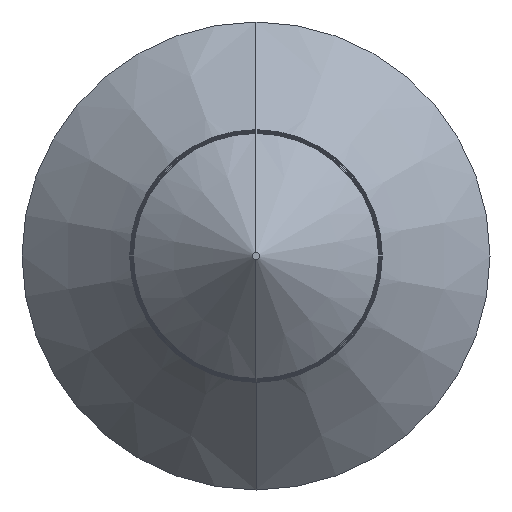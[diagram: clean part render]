
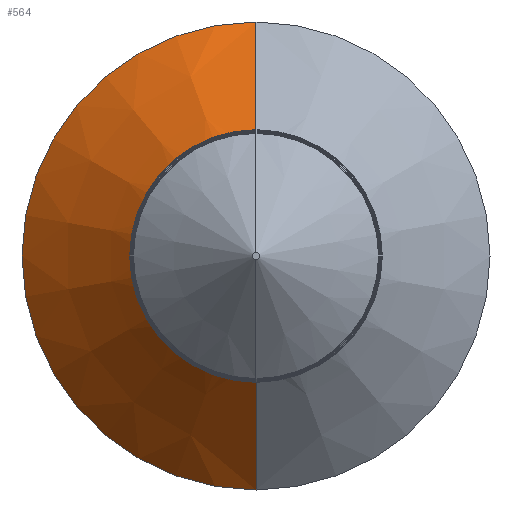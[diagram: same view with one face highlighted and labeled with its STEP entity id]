
A CAD part, left-side view. The second image highlights one B-rep face of the part: STEP entity #564.
In plain terms, the highlighted conical face has half-angle 45 degrees and reference radius 2.1 mm.
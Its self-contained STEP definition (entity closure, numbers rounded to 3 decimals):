
#19 = CIRCLE ( 'NONE', #557, 2.1 ) ;
#69 = CARTESIAN_POINT ( 'NONE',  ( -4.484, 0., -2.1 ) ) ;
#78 = VERTEX_POINT ( 'NONE', #284 ) ;
#135 = EDGE_CURVE ( 'NONE', #1913, #78, #2048, .T. ) ;
#150 = ORIENTED_EDGE ( 'NONE', *, *, #135, .F. ) ;
#162 = DIRECTION ( 'NONE',  ( 0., 0., -1. ) ) ;
#172 = CARTESIAN_POINT ( 'NONE',  ( -5.65, 0., 0.934 ) ) ;
#184 = CARTESIAN_POINT ( 'NONE',  ( -4.484, 0., 2.1 ) ) ;
#224 = LINE ( 'NONE', #509, #1456 ) ;
#248 = ORIENTED_EDGE ( 'NONE', *, *, #268, .T. ) ;
#268 = EDGE_CURVE ( 'NONE', #1913, #322, #1397, .T. ) ;
#284 = CARTESIAN_POINT ( 'NONE',  ( -5.65, 0., -0.934 ) ) ;
#322 = VERTEX_POINT ( 'NONE', #1619 ) ;
#356 = DIRECTION ( 'NONE',  ( 0.707, 0., -0.707 ) ) ;
#447 = AXIS2_PLACEMENT_3D ( 'NONE', #613, #2007, #498 ) ;
#498 = DIRECTION ( 'NONE',  ( 0., 0., 1. ) ) ;
#509 = CARTESIAN_POINT ( 'NONE',  ( -4.484, 0., -2.1 ) ) ;
#557 = AXIS2_PLACEMENT_3D ( 'NONE', #2195, #1269, #1132 ) ;
#564 = ADVANCED_FACE ( 'NONE', ( #1158 ), #1039, .T. ) ;
#574 = DIRECTION ( 'NONE',  ( 1., 0., 0. ) ) ;
#613 = CARTESIAN_POINT ( 'NONE',  ( -5.65, 0., 0. ) ) ;
#771 = EDGE_CURVE ( 'NONE', #322, #920, #19, .T. ) ;
#920 = VERTEX_POINT ( 'NONE', #69 ) ;
#1039 = CONICAL_SURFACE ( 'NONE', #2016, 2.1, 0.785 ) ;
#1132 = DIRECTION ( 'NONE',  ( 0., 0., 1. ) ) ;
#1157 = ORIENTED_EDGE ( 'NONE', *, *, #771, .T. ) ;
#1158 = FACE_OUTER_BOUND ( 'NONE', #1382, .T. ) ;
#1269 = DIRECTION ( 'NONE',  ( -1., 0., 0. ) ) ;
#1370 = VECTOR ( 'NONE', #1796, 1000. ) ;
#1382 = EDGE_LOOP ( 'NONE', ( #150, #248, #1157, #1615 ) ) ;
#1397 = LINE ( 'NONE', #184, #1370 ) ;
#1414 = EDGE_CURVE ( 'NONE', #78, #920, #224, .T. ) ;
#1456 = VECTOR ( 'NONE', #356, 1000. ) ;
#1588 = CARTESIAN_POINT ( 'NONE',  ( -4.484, 0., 0. ) ) ;
#1615 = ORIENTED_EDGE ( 'NONE', *, *, #1414, .F. ) ;
#1619 = CARTESIAN_POINT ( 'NONE',  ( -4.484, 0., 2.1 ) ) ;
#1796 = DIRECTION ( 'NONE',  ( 0.707, 0., 0.707 ) ) ;
#1913 = VERTEX_POINT ( 'NONE', #172 ) ;
#2007 = DIRECTION ( 'NONE',  ( -1., 0., 0. ) ) ;
#2016 = AXIS2_PLACEMENT_3D ( 'NONE', #1588, #574, #162 ) ;
#2048 = CIRCLE ( 'NONE', #447, 0.934 ) ;
#2195 = CARTESIAN_POINT ( 'NONE',  ( -4.484, 0., 0. ) ) ;
